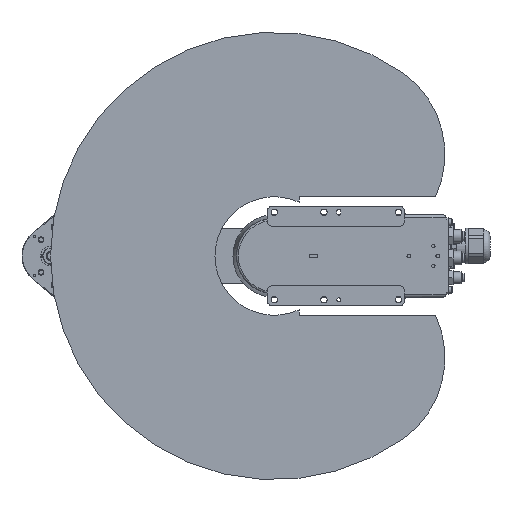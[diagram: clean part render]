
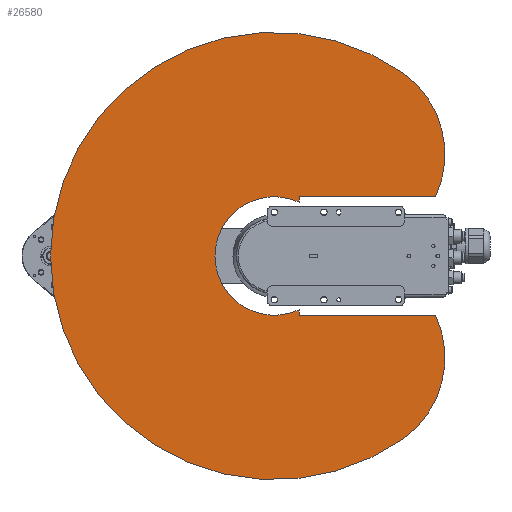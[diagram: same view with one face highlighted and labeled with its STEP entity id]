
A CAD part, front view. The second image highlights one B-rep face of the part: STEP entity #26580.
In plain terms, the highlighted planar face has unit normal (0, -1, 0).
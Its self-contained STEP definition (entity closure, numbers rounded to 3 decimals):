
#543 = CARTESIAN_POINT ( 'NONE',  ( -60., 0., 25. ) ) ;
#768 = CIRCLE ( 'NONE', #32417, 59.6 ) ;
#959 = ORIENTED_EDGE ( 'NONE', *, *, #39447, .F. ) ;
#993 = CARTESIAN_POINT ( 'NONE',  ( 54.103, 0., 25. ) ) ;
#4903 = DIRECTION ( 'NONE',  ( 0., 1., 0. ) ) ;
#5255 = CARTESIAN_POINT ( 'NONE',  ( 0., 0., 0. ) ) ;
#5563 = DIRECTION ( 'NONE',  ( 1., 0., 0. ) ) ;
#5620 = PLANE ( 'NONE',  #68160 ) ;
#6204 = VERTEX_POINT ( 'NONE', #56325 ) ;
#7611 = VECTOR ( 'NONE', #51289, 1000. ) ;
#7656 = ORIENTED_EDGE ( 'NONE', *, *, #10757, .F. ) ;
#9604 = EDGE_CURVE ( 'NONE', #26261, #53268, #41136, .T. ) ;
#10757 = EDGE_CURVE ( 'NONE', #6204, #15071, #26247, .T. ) ;
#10831 = DIRECTION ( 'NONE',  ( 1., 0., 0. ) ) ;
#11090 = DIRECTION ( 'NONE',  ( 1., 0., 0. ) ) ;
#11448 = DIRECTION ( 'NONE',  ( 0., 1., 0. ) ) ;
#12415 = CARTESIAN_POINT ( 'NONE',  ( -102.394, 0., 71.697 ) ) ;
#13242 = ORIENTED_EDGE ( 'NONE', *, *, #32789, .F. ) ;
#14107 = CARTESIAN_POINT ( 'NONE',  ( 0., 0., -59.6 ) ) ;
#15071 = VERTEX_POINT ( 'NONE', #543 ) ;
#15487 = CARTESIAN_POINT ( 'NONE',  ( 0., 0., 0. ) ) ;
#16331 = VECTOR ( 'NONE', #43805, 1000. ) ;
#16820 = EDGE_CURVE ( 'NONE', #66628, #26261, #51909, .T. ) ;
#17578 = VERTEX_POINT ( 'NONE', #14107 ) ;
#18076 = CARTESIAN_POINT ( 'NONE',  ( 60., 0., 25. ) ) ;
#18092 = DIRECTION ( 'NONE',  ( 1., 0., 0. ) ) ;
#20857 = CARTESIAN_POINT ( 'NONE',  ( 183.717, 0., 129.897 ) ) ;
#21841 = DIRECTION ( 'NONE',  ( 0., 1., 0. ) ) ;
#21928 = EDGE_CURVE ( 'NONE', #66714, #66628, #23453, .T. ) ;
#23453 = CIRCLE ( 'NONE', #37001, 100.003 ) ;
#23811 = ORIENTED_EDGE ( 'NONE', *, *, #9604, .F. ) ;
#24003 = ORIENTED_EDGE ( 'NONE', *, *, #33439, .F. ) ;
#24962 = ORIENTED_EDGE ( 'NONE', *, *, #16820, .F. ) ;
#25557 = CARTESIAN_POINT ( 'NONE',  ( 0., 0., 0. ) ) ;
#26247 = LINE ( 'NONE', #59678, #16331 ) ;
#26261 = VERTEX_POINT ( 'NONE', #69032 ) ;
#26580 = ADVANCED_FACE ( 'NONE', ( #48733 ), #5620, .F. ) ;
#26849 = CIRCLE ( 'NONE', #44815, 100.003 ) ;
#31103 = DIRECTION ( 'NONE',  ( 1., 0., 0. ) ) ;
#32417 = AXIS2_PLACEMENT_3D ( 'NONE', #15487, #47647, #10831 ) ;
#32789 = EDGE_CURVE ( 'NONE', #44764, #35721, #36412, .T. ) ;
#33439 = EDGE_CURVE ( 'NONE', #53268, #6204, #26849, .T. ) ;
#35066 = LINE ( 'NONE', #18076, #7611 ) ;
#35721 = VERTEX_POINT ( 'NONE', #51002 ) ;
#36003 = ORIENTED_EDGE ( 'NONE', *, *, #45796, .T. ) ;
#36047 = CARTESIAN_POINT ( 'NONE',  ( 54.103, 0., 25. ) ) ;
#36412 = LINE ( 'NONE', #36047, #47504 ) ;
#37001 = AXIS2_PLACEMENT_3D ( 'NONE', #38327, #11448, #11090 ) ;
#38327 = CARTESIAN_POINT ( 'NONE',  ( 102.394, 0., 71.697 ) ) ;
#38599 = EDGE_LOOP ( 'NONE', ( #24962, #57279, #67993, #13242, #36003, #46683, #959, #7656, #24003, #23811 ) ) ;
#39170 = CARTESIAN_POINT ( 'NONE',  ( 60., 0., 162.269 ) ) ;
#39447 = EDGE_CURVE ( 'NONE', #15071, #52927, #44878, .T. ) ;
#41136 = CIRCLE ( 'NONE', #55773, 225. ) ;
#43419 = DIRECTION ( 'NONE',  ( 1., 0., 0. ) ) ;
#43805 = DIRECTION ( 'NONE',  ( 0., 0., -1. ) ) ;
#44764 = VERTEX_POINT ( 'NONE', #993 ) ;
#44815 = AXIS2_PLACEMENT_3D ( 'NONE', #12415, #55169, #18092 ) ;
#44878 = LINE ( 'NONE', #49500, #59117 ) ;
#45122 = AXIS2_PLACEMENT_3D ( 'NONE', #5255, #4903, #48704 ) ;
#45796 = EDGE_CURVE ( 'NONE', #44764, #17578, #768, .T. ) ;
#46462 = AXIS2_PLACEMENT_3D ( 'NONE', #25557, #58667, #47420 ) ;
#46615 = EDGE_CURVE ( 'NONE', #35721, #66714, #35066, .T. ) ;
#46683 = ORIENTED_EDGE ( 'NONE', *, *, #55241, .T. ) ;
#47420 = DIRECTION ( 'NONE',  ( 1., 0., 0. ) ) ;
#47504 = VECTOR ( 'NONE', #31103, 1000. ) ;
#47647 = DIRECTION ( 'NONE',  ( 0., 1., 0. ) ) ;
#48704 = DIRECTION ( 'NONE',  ( 1., 0., 0. ) ) ;
#48733 = FACE_OUTER_BOUND ( 'NONE', #38599, .T. ) ;
#49500 = CARTESIAN_POINT ( 'NONE',  ( -60., 0., 25. ) ) ;
#51002 = CARTESIAN_POINT ( 'NONE',  ( 60., 0., 25. ) ) ;
#51289 = DIRECTION ( 'NONE',  ( 0., 0., 1. ) ) ;
#51909 = CIRCLE ( 'NONE', #45122, 225. ) ;
#52927 = VERTEX_POINT ( 'NONE', #59102 ) ;
#52931 = CARTESIAN_POINT ( 'NONE',  ( 0., 0., 0. ) ) ;
#53268 = VERTEX_POINT ( 'NONE', #59409 ) ;
#55169 = DIRECTION ( 'NONE',  ( 0., 1., 0. ) ) ;
#55241 = EDGE_CURVE ( 'NONE', #17578, #52927, #67936, .T. ) ;
#55773 = AXIS2_PLACEMENT_3D ( 'NONE', #52931, #21841, #5563 ) ;
#56325 = CARTESIAN_POINT ( 'NONE',  ( -60., 0., 162.269 ) ) ;
#57279 = ORIENTED_EDGE ( 'NONE', *, *, #21928, .F. ) ;
#58667 = DIRECTION ( 'NONE',  ( 0., 1., 0. ) ) ;
#59102 = CARTESIAN_POINT ( 'NONE',  ( -54.103, 0., 25. ) ) ;
#59117 = VECTOR ( 'NONE', #61121, 1000. ) ;
#59409 = CARTESIAN_POINT ( 'NONE',  ( -183.717, 0., 129.897 ) ) ;
#59678 = CARTESIAN_POINT ( 'NONE',  ( -60., 0., 162.269 ) ) ;
#60673 = CARTESIAN_POINT ( 'NONE',  ( 0., 0., 0. ) ) ;
#61121 = DIRECTION ( 'NONE',  ( 1., 0., 0. ) ) ;
#64988 = DIRECTION ( 'NONE',  ( 0., 1., 0. ) ) ;
#66628 = VERTEX_POINT ( 'NONE', #20857 ) ;
#66714 = VERTEX_POINT ( 'NONE', #39170 ) ;
#67936 = CIRCLE ( 'NONE', #46462, 59.6 ) ;
#67993 = ORIENTED_EDGE ( 'NONE', *, *, #46615, .F. ) ;
#68160 = AXIS2_PLACEMENT_3D ( 'NONE', #60673, #64988, #43419 ) ;
#69032 = CARTESIAN_POINT ( 'NONE',  ( 0., 0., -225. ) ) ;
